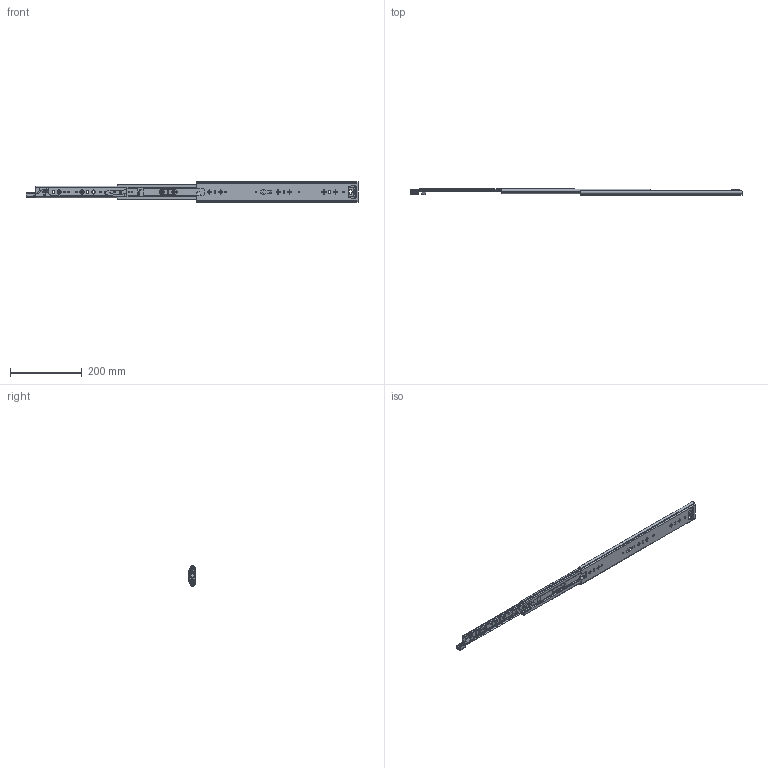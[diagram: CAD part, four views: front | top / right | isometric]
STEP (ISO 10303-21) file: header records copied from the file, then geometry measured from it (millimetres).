
FILE_DESCRIPTION((''),'2;1');
FILE_NAME('KP-57-01ZUZHUANGTU-18_ASM','2023-03-30T',('jishu015'),(''),'PRO/ENGINEER BY PARAMETRIC TECHNOLOGY CORPORATION, 2010280','PRO/ENGINEER BY PARAMETRIC TECHNOLOGY CORPORATION, 2010280','');
FILE_SCHEMA(('CONFIG_CONTROL_DESIGN'));
Length unit declared in the file: millimetre
Products named in the file (22): KP-57-01WEIKE-20_; 1057WEIJIAO_________________; WAIKE________________ASM; KP-57-01ZHONGGUI-26____; ZHONGGUIPEIJIAN-20_; ZHONGGUISUOKOU-18; KP-57-01ZHONGGUI-26_____ASM; 1057XIAOZHUJIA_________________; 1057-5-6GANZHU_________________; 1057XIAOZHUJIA-14GE26_____ASM; KP-57-01NEIGUI-22__; PJ-57-08_______________; DIAOPIAN-11_______________; 50XINSUOKOU-1_______________; TANHUANG_______________; 1053-3SBANJI122_____________; JIAO11_____________; KP-57-01NEIGUI-22___ASM; 1053ZHUTIAO-275____; 53-5-6GANZHU1_; 1053ZHUTIAO-175MM111_ASM; KP-57-01ZUZHUANGTU-18_ASM
Assembly tree (55 placements, depth 3):
  KP-57-01ZUZHUANGTU-18_ASM
    WAIKE________________ASM
      KP-57-01WEIKE-20_
      1057WEIJIAO_________________
    KP-57-01ZHONGGUI-26_____ASM
      KP-57-01ZHONGGUI-26____
      ZHONGGUIPEIJIAN-20_
      ZHONGGUISUOKOU-18
    1057XIAOZHUJIA-14GE26_____ASM
      1057XIAOZHUJIA_________________
      1057-5-6GANZHU_________________  x28
    KP-57-01NEIGUI-22___ASM
      KP-57-01NEIGUI-22__
      PJ-57-08_______________
      DIAOPIAN-11_______________
      50XINSUOKOU-1_______________
      TANHUANG_______________
      1053-3SBANJI122_____________
      JIAO11_____________
    1053ZHUTIAO-175MM111_ASM  x2
      1053ZHUTIAO-275____
      53-5-6GANZHU1_
Bounding box: 926.92 x 19.01 x 57.67 mm (x, y, z)
Volume: 195542.2 mm3; surface area: 211905.3 mm2
Topology: 59 solids, 59 shells, 1806 faces, 5146 edges, 3237 vertices
Faces by surface type: plane 771, cylinder 746, sphere 95, bspline 86, cone 60, torus 25, extrusion 23
Entity records: 60112 total; most frequent: CARTESIAN_POINT 15335, ORIENTED_EDGE 9476, DIRECTION 9178, EDGE_CURVE 4738, AXIS2_PLACEMENT_3D 3166, VERTEX_POINT 3057, VECTOR 2846, LINE 2823
